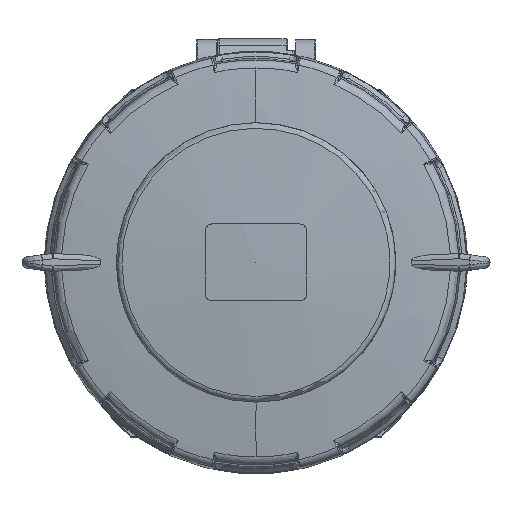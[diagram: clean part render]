
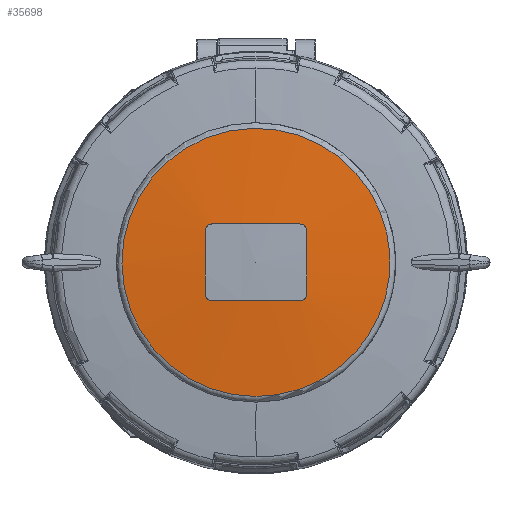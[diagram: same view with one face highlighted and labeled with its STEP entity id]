
A CAD part, top view. The second image highlights one B-rep face of the part: STEP entity #35698.
In plain terms, the highlighted spherical face has radius 364.736 mm.
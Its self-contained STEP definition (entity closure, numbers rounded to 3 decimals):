
#35698 = ADVANCED_FACE('',(#35699),#35848,.T.);
#35699 = FACE_BOUND('',#35700,.T.);
#35700 = EDGE_LOOP('',(#35701,#35712,#35722,#35731,#35752,#35761,#35782,
    #35791,#35812,#35821,#35840,#35841));
#35701 = ORIENTED_EDGE('',*,*,#35702,.F.);
#35702 = EDGE_CURVE('',#35703,#35705,#35707,.T.);
#35703 = VERTEX_POINT('',#35704);
#35704 = CARTESIAN_POINT('',(32.617,20.445,
    93.774));
#35705 = VERTEX_POINT('',#35706);
#35706 = CARTESIAN_POINT('',(0.,-38.189,93.774));
#35707 = CIRCLE('',#35708,38.389);
#35708 = AXIS2_PLACEMENT_3D('',#35709,#35710,#35711);
#35709 = CARTESIAN_POINT('',(0.,0.2,93.774));
#35710 = DIRECTION('',(0.,0.,-1.));
#35711 = DIRECTION('',(0.,-1.,0.));
#35712 = ORIENTED_EDGE('',*,*,#35713,.F.);
#35713 = EDGE_CURVE('',#35714,#35703,#35716,.T.);
#35714 = VERTEX_POINT('',#35715);
#35715 = CARTESIAN_POINT('',(14.5,9.2,95.401));
#35716 = B_SPLINE_CURVE_WITH_KNOTS('',4,(#35717,#35718,#35719,#35720,
    #35721),.UNSPECIFIED.,.F.,.F.,(5,5),(-1.524,-1.465
    ),.PIECEWISE_BEZIER_KNOTS.);
#35717 = CARTESIAN_POINT('',(14.5,9.2,
    95.401));
#35718 = CARTESIAN_POINT('',(19.038,12.017,
    95.15));
#35719 = CARTESIAN_POINT('',(23.572,14.831,
    94.796));
#35720 = CARTESIAN_POINT('',(28.099,17.641,
    94.337));
#35721 = CARTESIAN_POINT('',(32.617,20.445,
    93.774));
#35722 = ORIENTED_EDGE('',*,*,#35723,.F.);
#35723 = EDGE_CURVE('',#35724,#35714,#35726,.T.);
#35724 = VERTEX_POINT('',#35725);
#35725 = CARTESIAN_POINT('',(14.5,-8.8,95.401));
#35726 = CIRCLE('',#35727,364.448);
#35727 = AXIS2_PLACEMENT_3D('',#35728,#35729,#35730);
#35728 = CARTESIAN_POINT('',(14.5,0.2,-268.936));
#35729 = DIRECTION('',(-1.,0.,0.));
#35730 = DIRECTION('',(0.,-1.,0.));
#35731 = ORIENTED_EDGE('',*,*,#35732,.T.);
#35732 = EDGE_CURVE('',#35724,#35733,#35735,.T.);
#35733 = VERTEX_POINT('',#35734);
#35734 = CARTESIAN_POINT('',(12.5,-10.8,95.42));
#35735 = B_SPLINE_CURVE_WITH_KNOTS('',3,(#35736,#35737,#35738,#35739,
    #35740,#35741,#35742,#35743,#35744,#35745,#35746,#35747,#35748,
    #35749,#35750,#35751),.UNSPECIFIED.,.F.,.F.,(4,3,3,3,3,4),(0.,
    0.215,0.43,0.644,0.859,1.),
  .UNSPECIFIED.);
#35736 = CARTESIAN_POINT('',(14.5,-8.8,95.401));
#35737 = CARTESIAN_POINT('',(14.5,-9.024,95.395));
#35738 = CARTESIAN_POINT('',(14.461,-9.25,
    95.391));
#35739 = CARTESIAN_POINT('',(14.387,-9.462,
    95.388));
#35740 = CARTESIAN_POINT('',(14.313,-9.673,
    95.385));
#35741 = CARTESIAN_POINT('',(14.202,-9.874,
    95.384));
#35742 = CARTESIAN_POINT('',(14.062,-10.049,
    95.385));
#35743 = CARTESIAN_POINT('',(13.923,-10.223,
    95.385));
#35744 = CARTESIAN_POINT('',(13.751,-10.376,
    95.387));
#35745 = CARTESIAN_POINT('',(13.561,-10.495,
    95.391));
#35746 = CARTESIAN_POINT('',(13.372,-10.614,
    95.394));
#35747 = CARTESIAN_POINT('',(13.159,-10.701,
    95.4));
#35748 = CARTESIAN_POINT('',(12.941,-10.751,
    95.406));
#35749 = CARTESIAN_POINT('',(12.797,-10.783,
    95.41));
#35750 = CARTESIAN_POINT('',(12.648,-10.8,95.415));
#35751 = CARTESIAN_POINT('',(12.5,-10.8,95.42));
#35752 = ORIENTED_EDGE('',*,*,#35753,.F.);
#35753 = EDGE_CURVE('',#35754,#35733,#35756,.T.);
#35754 = VERTEX_POINT('',#35755);
#35755 = CARTESIAN_POINT('',(-12.5,-10.8,95.42));
#35756 = CIRCLE('',#35757,364.57);
#35757 = AXIS2_PLACEMENT_3D('',#35758,#35759,#35760);
#35758 = CARTESIAN_POINT('',(0.,-10.8,-268.936));
#35759 = DIRECTION('',(0.,1.,0.));
#35760 = DIRECTION('',(-1.,0.,0.));
#35761 = ORIENTED_EDGE('',*,*,#35762,.T.);
#35762 = EDGE_CURVE('',#35754,#35763,#35765,.T.);
#35763 = VERTEX_POINT('',#35764);
#35764 = CARTESIAN_POINT('',(-14.5,-8.8,95.401));
#35765 = B_SPLINE_CURVE_WITH_KNOTS('',3,(#35766,#35767,#35768,#35769,
    #35770,#35771,#35772,#35773,#35774,#35775,#35776,#35777,#35778,
    #35779,#35780,#35781),.UNSPECIFIED.,.F.,.F.,(4,3,3,3,3,4),(0.,
    0.215,0.43,0.645,0.859,1.),
  .UNSPECIFIED.);
#35766 = CARTESIAN_POINT('',(-12.5,-10.8,95.42));
#35767 = CARTESIAN_POINT('',(-12.724,-10.8,
    95.412));
#35768 = CARTESIAN_POINT('',(-12.951,-10.761,
    95.405));
#35769 = CARTESIAN_POINT('',(-13.162,-10.687,
    95.4));
#35770 = CARTESIAN_POINT('',(-13.373,-10.613,
    95.394));
#35771 = CARTESIAN_POINT('',(-13.574,-10.502,
    95.39));
#35772 = CARTESIAN_POINT('',(-13.749,-10.362,
    95.388));
#35773 = CARTESIAN_POINT('',(-13.924,-10.222,
    95.385));
#35774 = CARTESIAN_POINT('',(-14.077,-10.05,
    95.384));
#35775 = CARTESIAN_POINT('',(-14.196,-9.86,
    95.385));
#35776 = CARTESIAN_POINT('',(-14.314,-9.671,
    95.385));
#35777 = CARTESIAN_POINT('',(-14.402,-9.458,
    95.388));
#35778 = CARTESIAN_POINT('',(-14.451,-9.24,
    95.391));
#35779 = CARTESIAN_POINT('',(-14.483,-9.096,
    95.394));
#35780 = CARTESIAN_POINT('',(-14.5,-8.948,95.397));
#35781 = CARTESIAN_POINT('',(-14.5,-8.8,95.401));
#35782 = ORIENTED_EDGE('',*,*,#35783,.F.);
#35783 = EDGE_CURVE('',#35784,#35763,#35786,.T.);
#35784 = VERTEX_POINT('',#35785);
#35785 = CARTESIAN_POINT('',(-14.5,9.2,95.401));
#35786 = CIRCLE('',#35787,364.448);
#35787 = AXIS2_PLACEMENT_3D('',#35788,#35789,#35790);
#35788 = CARTESIAN_POINT('',(-14.5,0.2,-268.936));
#35789 = DIRECTION('',(1.,0.,0.));
#35790 = DIRECTION('',(-0.,1.,0.));
#35791 = ORIENTED_EDGE('',*,*,#35792,.T.);
#35792 = EDGE_CURVE('',#35784,#35793,#35795,.T.);
#35793 = VERTEX_POINT('',#35794);
#35794 = CARTESIAN_POINT('',(-12.5,11.2,95.42));
#35795 = B_SPLINE_CURVE_WITH_KNOTS('',3,(#35796,#35797,#35798,#35799,
    #35800,#35801,#35802,#35803,#35804,#35805,#35806,#35807,#35808,
    #35809,#35810,#35811),.UNSPECIFIED.,.F.,.F.,(4,3,3,3,3,4),(0.,
    0.215,0.43,0.644,0.859,1.),
  .UNSPECIFIED.);
#35796 = CARTESIAN_POINT('',(-14.5,9.2,95.401));
#35797 = CARTESIAN_POINT('',(-14.5,9.424,95.395));
#35798 = CARTESIAN_POINT('',(-14.461,9.65,
    95.391));
#35799 = CARTESIAN_POINT('',(-14.387,9.862,
    95.388));
#35800 = CARTESIAN_POINT('',(-14.313,10.073,
    95.385));
#35801 = CARTESIAN_POINT('',(-14.202,10.274,
    95.384));
#35802 = CARTESIAN_POINT('',(-14.062,10.449,
    95.385));
#35803 = CARTESIAN_POINT('',(-13.923,10.623,
    95.385));
#35804 = CARTESIAN_POINT('',(-13.751,10.776,
    95.387));
#35805 = CARTESIAN_POINT('',(-13.561,10.895,
    95.391));
#35806 = CARTESIAN_POINT('',(-13.372,11.014,
    95.394));
#35807 = CARTESIAN_POINT('',(-13.159,11.101,
    95.4));
#35808 = CARTESIAN_POINT('',(-12.941,11.151,
    95.406));
#35809 = CARTESIAN_POINT('',(-12.797,11.183,
    95.41));
#35810 = CARTESIAN_POINT('',(-12.648,11.2,95.415));
#35811 = CARTESIAN_POINT('',(-12.5,11.2,95.42));
#35812 = ORIENTED_EDGE('',*,*,#35813,.F.);
#35813 = EDGE_CURVE('',#35814,#35793,#35816,.T.);
#35814 = VERTEX_POINT('',#35815);
#35815 = CARTESIAN_POINT('',(12.5,11.2,95.42));
#35816 = CIRCLE('',#35817,364.57);
#35817 = AXIS2_PLACEMENT_3D('',#35818,#35819,#35820);
#35818 = CARTESIAN_POINT('',(0.,11.2,-268.936));
#35819 = DIRECTION('',(0.,-1.,0.));
#35820 = DIRECTION('',(1.,0.,0.));
#35821 = ORIENTED_EDGE('',*,*,#35822,.T.);
#35822 = EDGE_CURVE('',#35814,#35714,#35823,.T.);
#35823 = B_SPLINE_CURVE_WITH_KNOTS('',3,(#35824,#35825,#35826,#35827,
    #35828,#35829,#35830,#35831,#35832,#35833,#35834,#35835,#35836,
    #35837,#35838,#35839),.UNSPECIFIED.,.F.,.F.,(4,3,3,3,3,4),(0.,
    0.215,0.43,0.645,0.859,1.),
  .UNSPECIFIED.);
#35824 = CARTESIAN_POINT('',(12.5,11.2,95.42));
#35825 = CARTESIAN_POINT('',(12.724,11.2,
    95.412));
#35826 = CARTESIAN_POINT('',(12.951,11.161,
    95.405));
#35827 = CARTESIAN_POINT('',(13.162,11.087,
    95.4));
#35828 = CARTESIAN_POINT('',(13.373,11.013,
    95.394));
#35829 = CARTESIAN_POINT('',(13.574,10.902,
    95.39));
#35830 = CARTESIAN_POINT('',(13.749,10.762,
    95.388));
#35831 = CARTESIAN_POINT('',(13.924,10.622,
    95.385));
#35832 = CARTESIAN_POINT('',(14.077,10.45,
    95.384));
#35833 = CARTESIAN_POINT('',(14.196,10.26,
    95.385));
#35834 = CARTESIAN_POINT('',(14.314,10.071,
    95.385));
#35835 = CARTESIAN_POINT('',(14.402,9.858,
    95.388));
#35836 = CARTESIAN_POINT('',(14.451,9.64,
    95.391));
#35837 = CARTESIAN_POINT('',(14.483,9.496,
    95.394));
#35838 = CARTESIAN_POINT('',(14.5,9.348,95.397));
#35839 = CARTESIAN_POINT('',(14.5,9.2,95.401));
#35840 = ORIENTED_EDGE('',*,*,#35713,.T.);
#35841 = ORIENTED_EDGE('',*,*,#35842,.F.);
#35842 = EDGE_CURVE('',#35705,#35703,#35843,.T.);
#35843 = CIRCLE('',#35844,38.389);
#35844 = AXIS2_PLACEMENT_3D('',#35845,#35846,#35847);
#35845 = CARTESIAN_POINT('',(0.,0.2,93.774));
#35846 = DIRECTION('',(0.,0.,-1.));
#35847 = DIRECTION('',(0.,-1.,0.));
#35848 = SPHERICAL_SURFACE('',#35849,364.736);
#35849 = AXIS2_PLACEMENT_3D('',#35850,#35851,#35852);
#35850 = CARTESIAN_POINT('',(0.,0.2,-268.936));
#35851 = DIRECTION('',(0.,0.,-1.));
#35852 = DIRECTION('',(1.,0.,0.));
